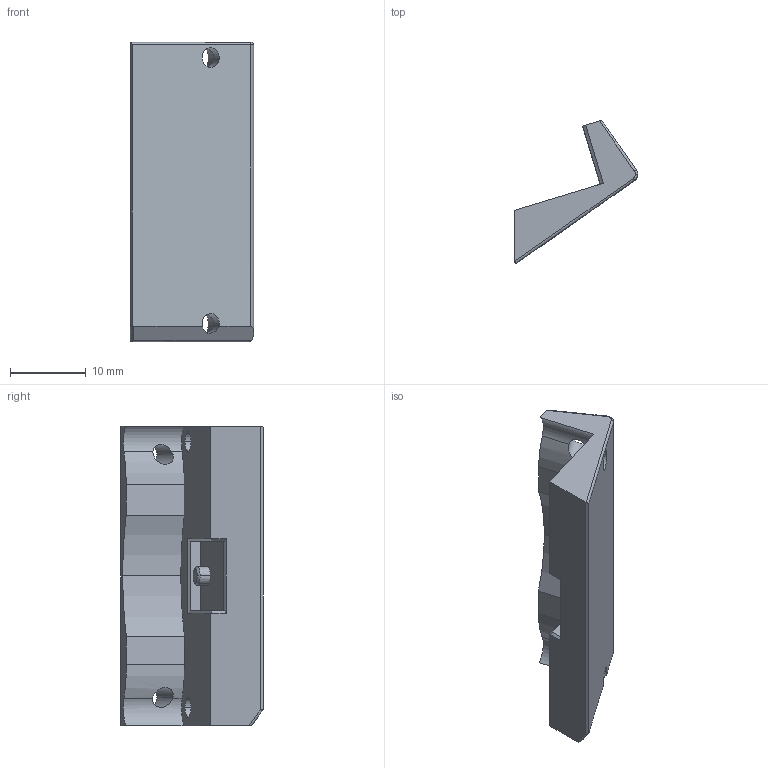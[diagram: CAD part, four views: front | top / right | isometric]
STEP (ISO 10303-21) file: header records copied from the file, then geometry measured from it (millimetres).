
FILE_DESCRIPTION (( 'STEP AP214' ), '1' );
FILE_NAME ('瑞圮蟀諉璃-1.STEP', '2024-05-08T10:18:08', ( '' ), ( '' ), 'SwSTEP 2.0', 'SolidWorks 2022', '' );
FILE_SCHEMA (( 'AUTOMOTIVE_DESIGN' ));
Length unit declared in the file: millimetre
Products named in the file (1): 风扇连接件-1
Bounding box: 16.25 x 18.82 x 39.4 mm (x, y, z)
Volume: 3262.4 mm3; surface area: 2555.2 mm2
Topology: 1 solids, 1 shells, 50 faces, 141 edges, 91 vertices
Faces by surface type: cylinder 24, plane 22, torus 2, cone 2
Entity records: 1731 total; most frequent: CARTESIAN_POINT 427, ORIENTED_EDGE 282, DIRECTION 251, EDGE_CURVE 141, VERTEX_POINT 91, AXIS2_PLACEMENT_3D 85, LINE 81, VECTOR 81
